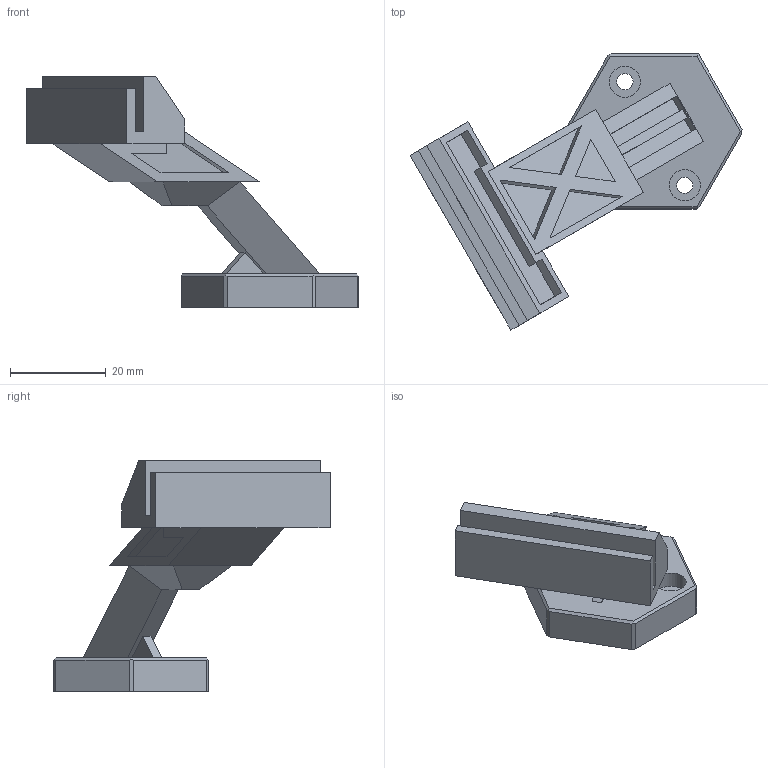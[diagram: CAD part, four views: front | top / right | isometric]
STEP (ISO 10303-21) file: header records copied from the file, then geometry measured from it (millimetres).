
FILE_DESCRIPTION(/* description */ (''),/* implementation_level */ '2;1');
FILE_NAME(/* name */ '/Users/simonhu/OneDrive - FH JOANNEUM/5Semsester/Projekt/3D/turret_final/leg_2.step',/* time_stamp */ '2022-01-27T19:31:34+01:00',/* author */ (''),/* organization */ (''),/* preprocessor_version */ 'ST-DEVELOPER v18.1',/* originating_system */ 'Autodesk Translation Framework v10.13.0.1454',/* authorisation */ '');
FILE_SCHEMA (('AUTOMOTIVE_DESIGN { 1 0 10303 214 3 1 1 }'));
Length unit declared in the file: millimetre
Products named in the file (1): turret_base_jan
Bounding box: 69.41 x 57.8 x 48.21 mm (x, y, z)
Volume: 17086.3 mm3; surface area: 9073.7 mm2
Topology: 1 solids, 1 shells, 100 faces, 251 edges, 165 vertices
Faces by surface type: plane 96, cylinder 4
Full cylindrical faces by diameter (mm): 3.4 x2, 6.5 x2
Entity records: 2957 total; most frequent: CARTESIAN_POINT 517, ORIENTED_EDGE 502, DIRECTION 461, EDGE_CURVE 251, LINE 243, VECTOR 243, VERTEX_POINT 165, EDGE_LOOP 116
